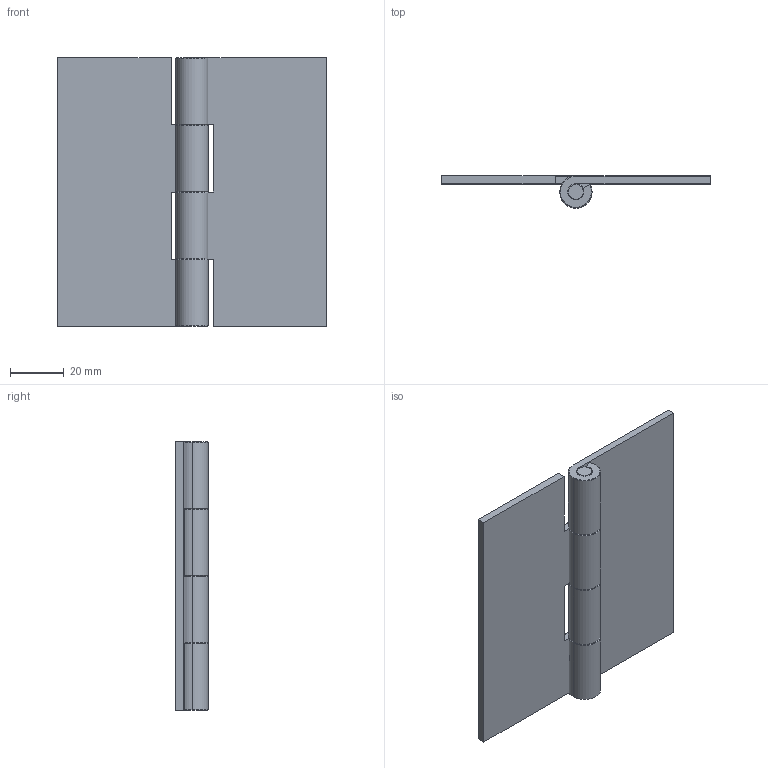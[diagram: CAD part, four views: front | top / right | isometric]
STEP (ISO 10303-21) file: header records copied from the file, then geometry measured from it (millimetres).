
FILE_DESCRIPTION((''),'2;1');
FILE_NAME('99.1001003.stp','2017-06-13T13:54:02',(''),(''),'Mechanical Desktop 2006','Mechanical Desktop 2006',', , ');
FILE_SCHEMA(('CONFIG_CONTROL_DESIGN'));
Length unit declared in the file: millimetre
Products named in the file (4): 100X100; TEIL1; TEIL2; TEIL3
Assembly tree (3 placements, depth 2):
  100X100
    TEIL1
    TEIL2
    TEIL3
Bounding box: 100.07 x 12 x 100 mm (x, y, z)
Volume: 37415.8 mm3; surface area: 27479.1 mm2
Topology: 3 solids, 3 shells, 86 faces, 214 edges, 134 vertices
Faces by surface type: plane 34, cylinder 26, cone 26
Entity records: 2677 total; most frequent: DIRECTION 464, CARTESIAN_POINT 454, ORIENTED_EDGE 428, EDGE_CURVE 214, AXIS2_PLACEMENT_3D 168, VERTEX_POINT 134, VECTOR 128, LINE 128
